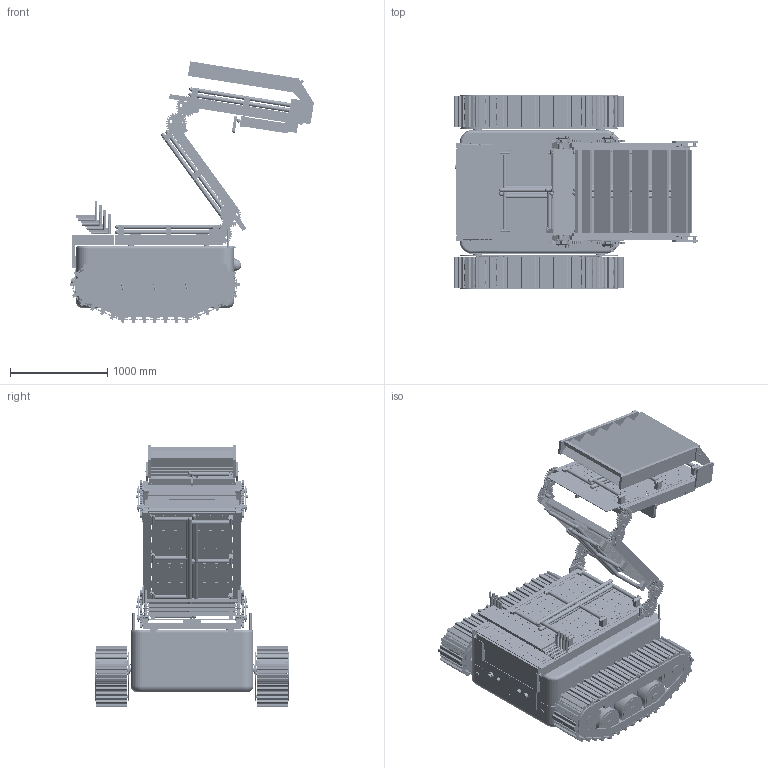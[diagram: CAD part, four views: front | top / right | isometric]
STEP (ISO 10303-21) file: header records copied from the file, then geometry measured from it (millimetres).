
FILE_DESCRIPTION(('Open CASCADE Model'),'2;1');
FILE_NAME('Open CASCADE Shape Model','2026-11-24T20:14:57',('Author'),( 'Open CASCADE'),'Open CASCADE STEP processor 7.9','Open CASCADE 7.9' ,'Unknown');
FILE_SCHEMA(('AUTOMOTIVE_DESIGN { 1 0 10303 214 1 1 1 1 }'));
Length unit declared in the file: centimetre
Products named in the file (676): AKORA_C14c_CLOSING_STAGE_03; 01_MAIN_BODY; BODY_LOWER; BODY_LOWER_TUB; BODY_JOINT_FLANGE_INNER; BODY_UPPER; BODY_UPPER_TUB; BODY_JOINT_BEAD; COVER_GASKET; COVER_GASKET_EPDM_10x8; PEDESTAL_GROMMET_600_L; PEDESTAL_GROMMET_600_R; PEDESTAL_GROMMET_1380_L; PEDESTAL_GROMMET_1380_R; SERVICE_PANEL_REAR_GASKET; COVER_INTERLOCK; COVER_SEAT_RING_FEMALE; COVER_LOCKS; COVER_QUARTER_TURN_STUD_01; COVER_RECEPTACLE_01; COVER_QUARTER_TURN_STUD_02; COVER_RECEPTACLE_02; COVER_QUARTER_TURN_STUD_03; COVER_RECEPTACLE_03; COVER_QUARTER_TURN_STUD_04; COVER_RECEPTACLE_04; COVER_QUARTER_TURN_STUD_05; COVER_RECEPTACLE_05; COVER_QUARTER_TURN_STUD_06; COVER_RECEPTACLE_06; COVER_QUARTER_TURN_STUD_07; COVER_RECEPTACLE_07; COVER_QUARTER_TURN_STUD_08; COVER_RECEPTACLE_08; COVER_QUARTER_TURN_STUD_09; COVER_RECEPTACLE_09; COVER_QUARTER_TURN_STUD_10; COVER_RECEPTACLE_10; INTERNAL_FRAME; FRAME_RAIL_L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
Assembly tree (743 placements, depth 5):
  AKORA_C14c_CLOSING_STAGE_03
    01_MAIN_BODY
      BODY_LOWER
        BODY_LOWER_TUB
        BODY_JOINT_FLANGE_INNER
      BODY_UPPER
        BODY_UPPER_TUB
        BODY_JOINT_BEAD
      COVER_GASKET
        COVER_GASKET_EPDM_10x8
        PEDESTAL_GROMMET_600_L
        PEDESTAL_GROMMET_600_R
        PEDESTAL_GROMMET_1380_L
        PEDESTAL_GROMMET_1380_R
        SERVICE_PANEL_REAR_GASKET
      COVER_INTERLOCK
        COVER_SEAT_RING_FEMALE
      COVER_LOCKS
        COVER_QUARTER_TURN_STUD_01
        COVER_RECEPTACLE_01
        COVER_QUARTER_TURN_STUD_02
        COVER_RECEPTACLE_02
        COVER_QUARTER_TURN_STUD_03
        COVER_RECEPTACLE_03
        COVER_QUARTER_TURN_STUD_04
        COVER_RECEPTACLE_04
        COVER_QUARTER_TURN_STUD_05
        COVER_RECEPTACLE_05
        COVER_QUARTER_TURN_STUD_06
        COVER_RECEPTACLE_06
        COVER_QUARTER_TURN_STUD_07
        COVER_RECEPTACLE_07
        COVER_QUARTER_TURN_STUD_08
        COVER_RECEPTACLE_08
        COVER_QUARTER_TURN_STUD_09
        COVER_RECEPTACLE_09
        COVER_QUARTER_TURN_STUD_10
        COVER_RECEPTACLE_10
      INTERNAL_FRAME
        FRAME_RAIL_L
        FRAME_RAIL_R
        FRAME_CROSS_1
        FRAME_CROSS_2
        FRAME_CROSS_3
        FRAME_CROSS_4
        FRAME_CROSS_5
        TRACK_MOTOR_PLATE_L
        TRACK_MOTOR_PLATE_R
      MOUNTING_BRACKETS
        FRAME_WALL_BRACKET_L_400
        FRAME_WALL_BRACKET_L_1300
        FRAME_WALL_BRACKET_R_400
        FRAME_WALL_BRACKET_R_1300
        P1_PEDESTAL_600_L
        P1_PEDESTAL_600_R
        P1_PEDESTAL_1380_L
        P1_PEDESTAL_1380_R
        REAR_LANDING_BRACKET_L
        REAR_LANDING_BRACKET_R
      SERVICE_PANELS
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Bounding box: 2500.8 x 1994 x 2682.83 mm (x, y, z)
Volume: 628183892.7 mm3; surface area: 87864523.7 mm2
Topology: 1494 solids, 1498 shells, 16526 faces, 39817 edges, 26536 vertices
Faces by surface type: plane 14101, cylinder 2385, sphere 22, torus 16, revolution 2
Full cylindrical faces by diameter (mm): 8 x18, 9 x20, 9.2 x10, 10 x150, 10.5 x4, 12 x34, 13 x4, 14 x4, 16 x36, 17 x8, 18 x4, 20 x15, 22 x12, 24 x39, 25 x16, 28 x34, 30 x64, 30.6 x40, 32 x22, 34 x36, 36 x4, 37 x54, 40 x96, 41 x8, 42 x54, 44 x11, 48 x24, 56 x2, 60 x5, 62 x4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
Entity records: 931551 total; most frequent: CARTESIAN_POINT 190398, DIRECTION 134825, LINE 95116, VECTOR 95116, ORIENTED_EDGE 69780, PCURVE 69764, DEFINITIONAL_REPRESENTATION 69764, EDGE_CURVE 34882
